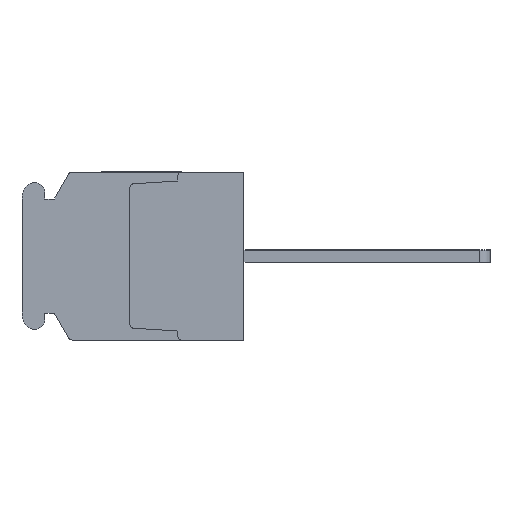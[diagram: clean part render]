
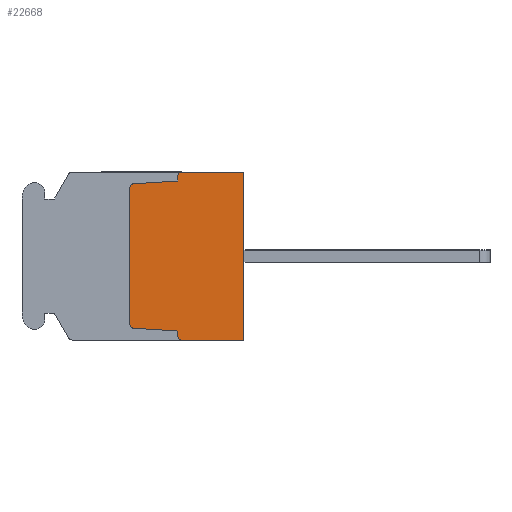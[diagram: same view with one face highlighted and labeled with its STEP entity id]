
A CAD part, left-side view. The second image highlights one B-rep face of the part: STEP entity #22668.
In plain terms, the highlighted planar face has unit normal (-1, 0, 0).
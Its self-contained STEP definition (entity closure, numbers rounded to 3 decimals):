
#2488=VECTOR('',#28523,1.);
#2489=VECTOR('',#28526,1.);
#2490=VECTOR('',#28527,1.);
#2491=VECTOR('',#28530,1.);
#2492=VECTOR('',#28531,1.);
#2493=VECTOR('',#28532,1.);
#2494=VECTOR('',#28535,1.);
#2495=VECTOR('',#28536,1.);
#4931=LINE('',#35351,#2488);
#4932=LINE('',#35355,#2489);
#4933=LINE('',#35357,#2490);
#4934=LINE('',#35361,#2491);
#4935=LINE('',#35363,#2492);
#4936=LINE('',#35365,#2493);
#4937=LINE('',#35369,#2494);
#4938=LINE('',#35371,#2495);
#6073=PLANE('',#24286);
#6670=CIRCLE('',#24287,0.3);
#6671=CIRCLE('',#24288,0.3);
#6672=CIRCLE('',#24289,0.3);
#6673=CIRCLE('',#24290,0.3);
#8519=VERTEX_POINT('',#35349);
#8520=VERTEX_POINT('',#35350);
#8521=VERTEX_POINT('',#35352);
#8522=VERTEX_POINT('',#35354);
#8523=VERTEX_POINT('',#35356);
#8524=VERTEX_POINT('',#35358);
#8525=VERTEX_POINT('',#35360);
#8526=VERTEX_POINT('',#35362);
#8527=VERTEX_POINT('',#35364);
#8528=VERTEX_POINT('',#35366);
#8529=VERTEX_POINT('',#35368);
#8530=VERTEX_POINT('',#35370);
#11736=EDGE_CURVE('',#8519,#8520,#6670,.T.);
#11737=EDGE_CURVE('',#8521,#8519,#4931,.T.);
#11738=EDGE_CURVE('',#8522,#8521,#6671,.T.);
#11739=EDGE_CURVE('',#8523,#8522,#4932,.T.);
#11740=EDGE_CURVE('',#8524,#8523,#4933,.T.);
#11741=EDGE_CURVE('',#8525,#8524,#6672,.T.);
#11742=EDGE_CURVE('',#8526,#8525,#4934,.T.);
#11743=EDGE_CURVE('',#8527,#8526,#4935,.T.);
#11744=EDGE_CURVE('',#8528,#8527,#4936,.T.);
#11745=EDGE_CURVE('',#8529,#8528,#6673,.T.);
#11746=EDGE_CURVE('',#8530,#8529,#4937,.T.);
#11747=EDGE_CURVE('',#8520,#8530,#4938,.T.);
#17661=ORIENTED_EDGE('',*,*,#11736,.F.);
#17662=ORIENTED_EDGE('',*,*,#11737,.F.);
#17663=ORIENTED_EDGE('',*,*,#11738,.F.);
#17664=ORIENTED_EDGE('',*,*,#11739,.F.);
#17665=ORIENTED_EDGE('',*,*,#11740,.F.);
#17666=ORIENTED_EDGE('',*,*,#11741,.F.);
#17667=ORIENTED_EDGE('',*,*,#11742,.F.);
#17668=ORIENTED_EDGE('',*,*,#11743,.F.);
#17669=ORIENTED_EDGE('',*,*,#11744,.F.);
#17670=ORIENTED_EDGE('',*,*,#11745,.F.);
#17671=ORIENTED_EDGE('',*,*,#11746,.F.);
#17672=ORIENTED_EDGE('',*,*,#11747,.F.);
#20089=EDGE_LOOP('',(#17661,#17662,#17663,#17664,#17665,#17666,#17667,#17668,
#17669,#17670,#17671,#17672));
#21419=FACE_BOUND('',#20089,.T.);
#22668=ADVANCED_FACE('',(#21419),#6073,.F.);
#24286=AXIS2_PLACEMENT_3D('',#35347,#28520,$);
#24287=AXIS2_PLACEMENT_3D('',#35348,#28521,#28522);
#24288=AXIS2_PLACEMENT_3D('',#35353,#28524,#28525);
#24289=AXIS2_PLACEMENT_3D('',#35359,#28528,#28529);
#24290=AXIS2_PLACEMENT_3D('',#35367,#28533,#28534);
#28520=DIRECTION('',(1.,0.,0.));
#28521=DIRECTION('',(1.,0.,0.));
#28522=DIRECTION('',(0.,0.,-0.3));
#28523=DIRECTION('',(0.,0.,1.));
#28524=DIRECTION('',(1.,0.,0.));
#28525=DIRECTION('',(0.,0.,-0.3));
#28526=DIRECTION('',(0.,0.998,0.062));
#28527=DIRECTION('',(0.,0.,1.));
#28528=DIRECTION('',(1.,0.,0.));
#28529=DIRECTION('',(0.,0.,-0.3));
#28530=DIRECTION('',(0.,1.,0.));
#28531=DIRECTION('',(0.,0.,-1.));
#28532=DIRECTION('',(0.,-1.,0.));
#28533=DIRECTION('',(1.,0.,0.));
#28534=DIRECTION('',(0.,0.,-0.3));
#28535=DIRECTION('',(0.,0.,1.));
#28536=DIRECTION('',(0.,-0.998,0.062));
#35347=CARTESIAN_POINT('',(0.,4.541,0.));
#35348=CARTESIAN_POINT('',(0.,9.2,5.718));
#35349=CARTESIAN_POINT('',(0.,9.5,5.718));
#35350=CARTESIAN_POINT('',(0.,9.219,6.018));
#35351=CARTESIAN_POINT('',(0.,9.5,-5.718));
#35352=CARTESIAN_POINT('',(0.,9.5,-5.718));
#35353=CARTESIAN_POINT('',(0.,9.2,-5.718));
#35354=CARTESIAN_POINT('',(0.,9.219,-6.018));
#35355=CARTESIAN_POINT('',(0.,5.5,-6.25));
#35356=CARTESIAN_POINT('',(0.,5.5,-6.25));
#35357=CARTESIAN_POINT('',(0.,5.5,-6.7));
#35358=CARTESIAN_POINT('',(0.,5.5,-6.7));
#35359=CARTESIAN_POINT('',(0.,5.2,-6.7));
#35360=CARTESIAN_POINT('',(0.,5.2,-7.));
#35361=CARTESIAN_POINT('',(0.,0.,-7.));
#35362=CARTESIAN_POINT('',(0.,0.,-7.));
#35363=CARTESIAN_POINT('',(0.,0.,7.));
#35364=CARTESIAN_POINT('',(0.,0.,7.));
#35365=CARTESIAN_POINT('',(0.,5.2,7.));
#35366=CARTESIAN_POINT('',(0.,5.2,7.));
#35367=CARTESIAN_POINT('',(0.,5.2,6.7));
#35368=CARTESIAN_POINT('',(0.,5.5,6.7));
#35369=CARTESIAN_POINT('',(0.,5.5,6.25));
#35370=CARTESIAN_POINT('',(0.,5.5,6.25));
#35371=CARTESIAN_POINT('',(0.,9.219,6.018));
